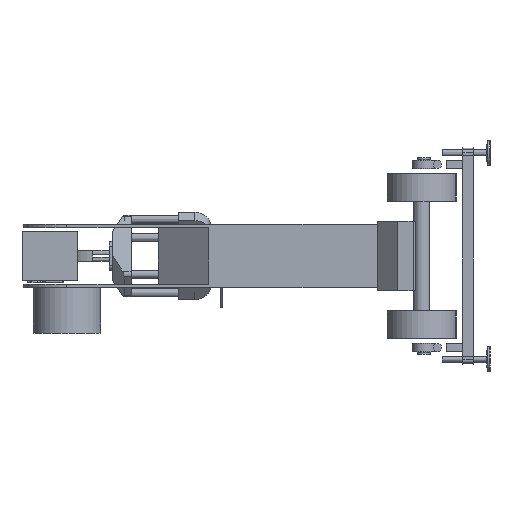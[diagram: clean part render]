
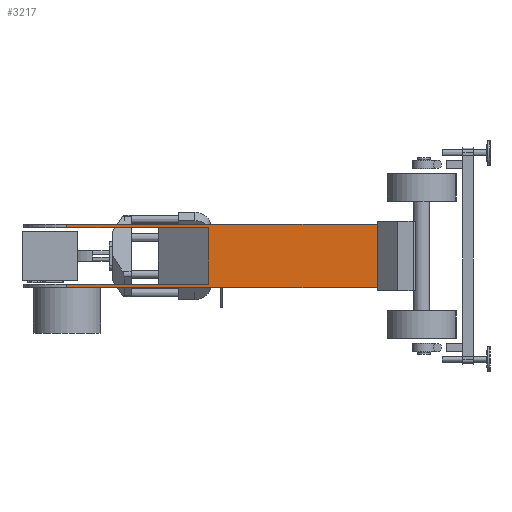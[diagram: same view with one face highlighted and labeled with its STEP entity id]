
A CAD part, left-side view. The second image highlights one B-rep face of the part: STEP entity #3217.
In plain terms, the highlighted planar face has unit normal (-1, 0, 0) as drawn and (1, 0, 0) by its records, which use the part's own axes.
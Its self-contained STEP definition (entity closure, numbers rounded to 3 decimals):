
#722=FACE_OUTER_BOUND('',#903,.T.);
#903=EDGE_LOOP('',(#2408,#2409,#2410,#2411,#2412,#2413,#2414,#2415));
#1104=LINE('',#5364,#1409);
#1106=LINE('',#5370,#1411);
#1109=LINE('',#5377,#1414);
#1115=LINE('',#5390,#1420);
#1116=LINE('',#5394,#1421);
#1117=LINE('',#5396,#1422);
#1118=LINE('',#5398,#1423);
#1119=LINE('',#5399,#1424);
#1409=VECTOR('',#4314,10.);
#1411=VECTOR('',#4320,10.);
#1414=VECTOR('',#4327,10.);
#1420=VECTOR('',#4337,10.);
#1421=VECTOR('',#4342,10.);
#1422=VECTOR('',#4343,10.);
#1423=VECTOR('',#4344,10.);
#1424=VECTOR('',#4345,10.);
#1710=VERTEX_POINT('',#5361);
#1711=VERTEX_POINT('',#5363);
#1712=VERTEX_POINT('',#5367);
#1715=VERTEX_POINT('',#5374);
#1720=VERTEX_POINT('',#5389);
#1721=VERTEX_POINT('',#5393);
#1722=VERTEX_POINT('',#5395);
#1723=VERTEX_POINT('',#5397);
#1964=EDGE_CURVE('',#1711,#1710,#1104,.T.);
#1967=EDGE_CURVE('',#1710,#1712,#1106,.T.);
#1971=EDGE_CURVE('',#1715,#1711,#1109,.T.);
#1977=EDGE_CURVE('',#1720,#1715,#1115,.T.);
#1979=EDGE_CURVE('',#1712,#1721,#1116,.T.);
#1980=EDGE_CURVE('',#1722,#1721,#1117,.T.);
#1981=EDGE_CURVE('',#1723,#1722,#1118,.T.);
#1982=EDGE_CURVE('',#1720,#1723,#1119,.T.);
#2408=ORIENTED_EDGE('',*,*,#1967,.T.);
#2409=ORIENTED_EDGE('',*,*,#1979,.T.);
#2410=ORIENTED_EDGE('',*,*,#1980,.F.);
#2411=ORIENTED_EDGE('',*,*,#1981,.F.);
#2412=ORIENTED_EDGE('',*,*,#1982,.F.);
#2413=ORIENTED_EDGE('',*,*,#1977,.T.);
#2414=ORIENTED_EDGE('',*,*,#1971,.T.);
#2415=ORIENTED_EDGE('',*,*,#1964,.T.);
#3064=PLANE('',#3816);
#3217=ADVANCED_FACE('',(#722),#3064,.T.);
#3816=AXIS2_PLACEMENT_3D('',#5392,#4340,#4341);
#4314=DIRECTION('',(0.,0.,1.));
#4320=DIRECTION('',(0.,1.,0.));
#4327=DIRECTION('',(0.,-1.,0.));
#4337=DIRECTION('',(0.,0.,1.));
#4340=DIRECTION('center_axis',(1.,0.,0.));
#4341=DIRECTION('ref_axis',(0.,1.,0.));
#4342=DIRECTION('',(0.,0.,1.));
#4343=DIRECTION('',(0.,1.,0.));
#4344=DIRECTION('',(0.,0.,1.));
#4345=DIRECTION('',(0.,-1.,0.));
#5361=CARTESIAN_POINT('',(210.,807.814,134.5));
#5363=CARTESIAN_POINT('',(210.,807.814,-134.5));
#5364=CARTESIAN_POINT('',(210.,807.814,67.25));
#5367=CARTESIAN_POINT('',(210.,1489.,134.5));
#5370=CARTESIAN_POINT('',(210.,593.289,134.5));
#5374=CARTESIAN_POINT('',(210.,1489.,-134.5));
#5377=CARTESIAN_POINT('',(210.,593.289,-134.5));
#5389=CARTESIAN_POINT('',(210.,1489.,-152.));
#5390=CARTESIAN_POINT('',(210.,1489.,0.));
#5392=CARTESIAN_POINT('Origin',(210.,0.,0.));
#5393=CARTESIAN_POINT('',(210.,1489.,152.));
#5394=CARTESIAN_POINT('',(210.,1489.,0.));
#5395=CARTESIAN_POINT('',(210.,0.,152.));
#5396=CARTESIAN_POINT('',(210.,0.,152.));
#5397=CARTESIAN_POINT('',(210.,0.,-152.));
#5398=CARTESIAN_POINT('',(210.,0.,0.));
#5399=CARTESIAN_POINT('',(210.,0.,-152.));
